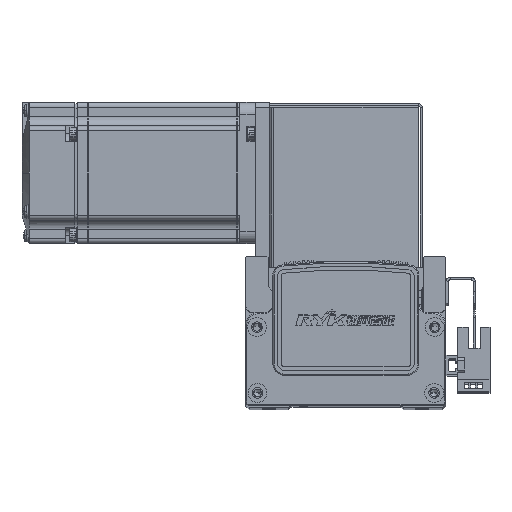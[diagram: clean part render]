
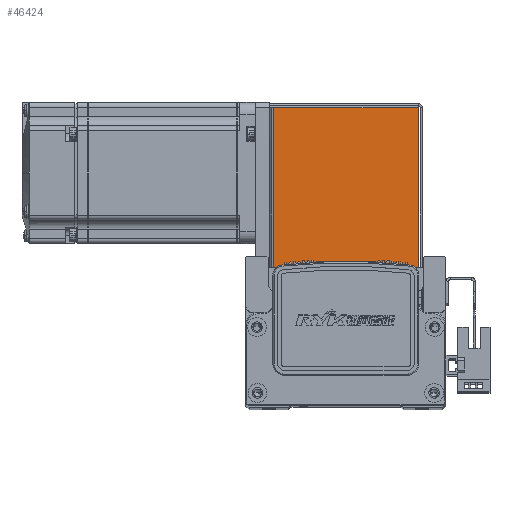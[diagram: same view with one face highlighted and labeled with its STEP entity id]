
A CAD part, top view. The second image highlights one B-rep face of the part: STEP entity #46424.
In plain terms, the highlighted planar face has unit normal (0, 0, 1).
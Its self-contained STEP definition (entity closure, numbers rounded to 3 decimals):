
#4852 = CARTESIAN_POINT ( 'NONE',  ( -30.793, 0.737, 35. ) ) ;
#4856 = CARTESIAN_POINT ( 'NONE',  ( 30.763, 0.737, 35. ) ) ;
#12064 = LINE ( 'NONE', #70806, #12069 ) ;
#12068 = LINE ( 'NONE', #70765, #12083 ) ;
#12069 = VECTOR ( 'NONE', #70787, 1000. ) ;
#12082 = VECTOR ( 'NONE', #70513, 1000. ) ;
#12083 = VECTOR ( 'NONE', #70781, 1000. ) ;
#12091 = LINE ( 'NONE', #70578, #12082 ) ;
#12097 = LINE ( 'NONE', #70707, #12099 ) ;
#12099 = VECTOR ( 'NONE', #70645, 1000. ) ;
#17429 = VERTEX_POINT ( 'NONE', #4852 ) ;
#17468 = VERTEX_POINT ( 'NONE', #4856 ) ;
#24483 = CARTESIAN_POINT ( 'NONE',  ( 30.763, 68.5, 35. ) ) ;
#24505 = CARTESIAN_POINT ( 'NONE',  ( -30.793, 68.5, 35. ) ) ;
#27328 = EDGE_LOOP ( 'NONE', ( #55017, #55117, #55102, #54964 ) ) ;
#27329 = AXIS2_PLACEMENT_3D ( 'NONE', #33099, #33167, #33113 ) ;
#29866 = FACE_OUTER_BOUND ( 'NONE', #27328, .T. ) ;
#33099 = CARTESIAN_POINT ( 'NONE',  ( 0., 0., 35. ) ) ;
#33103 = PLANE ( 'NONE',  #27329 ) ;
#33113 = DIRECTION ( 'NONE',  ( -1., 0., 0. ) ) ;
#33167 = DIRECTION ( 'NONE',  ( 0., 0., -1. ) ) ;
#46424 = ADVANCED_FACE ( 'NONE', ( #29866 ), #33103, .F. ) ;
#54964 = ORIENTED_EDGE ( 'NONE', *, *, #74959, .F. ) ;
#55017 = ORIENTED_EDGE ( 'NONE', *, *, #74975, .T. ) ;
#55102 = ORIENTED_EDGE ( 'NONE', *, *, #74979, .F. ) ;
#55117 = ORIENTED_EDGE ( 'NONE', *, *, #74954, .T. ) ;
#65665 = VERTEX_POINT ( 'NONE', #24483 ) ;
#65679 = VERTEX_POINT ( 'NONE', #24505 ) ;
#70513 = DIRECTION ( 'NONE',  ( -1., 0., 0. ) ) ;
#70578 = CARTESIAN_POINT ( 'NONE',  ( 0., 68.5, 35. ) ) ;
#70645 = DIRECTION ( 'NONE',  ( -1., 0., 0. ) ) ;
#70707 = CARTESIAN_POINT ( 'NONE',  ( -32.5, 0.737, 35. ) ) ;
#70765 = CARTESIAN_POINT ( 'NONE',  ( 30.763, 0.737, 35. ) ) ;
#70781 = DIRECTION ( 'NONE',  ( 0., 1., 0. ) ) ;
#70787 = DIRECTION ( 'NONE',  ( 0., 1., 0. ) ) ;
#70806 = CARTESIAN_POINT ( 'NONE',  ( -30.793, 0., 35. ) ) ;
#74954 = EDGE_CURVE ( 'NONE', #65665, #65679, #12091, .T. ) ;
#74959 = EDGE_CURVE ( 'NONE', #17468, #17429, #12097, .T. ) ;
#74975 = EDGE_CURVE ( 'NONE', #17468, #65665, #12068, .T. ) ;
#74979 = EDGE_CURVE ( 'NONE', #17429, #65679, #12064, .T. ) ;
